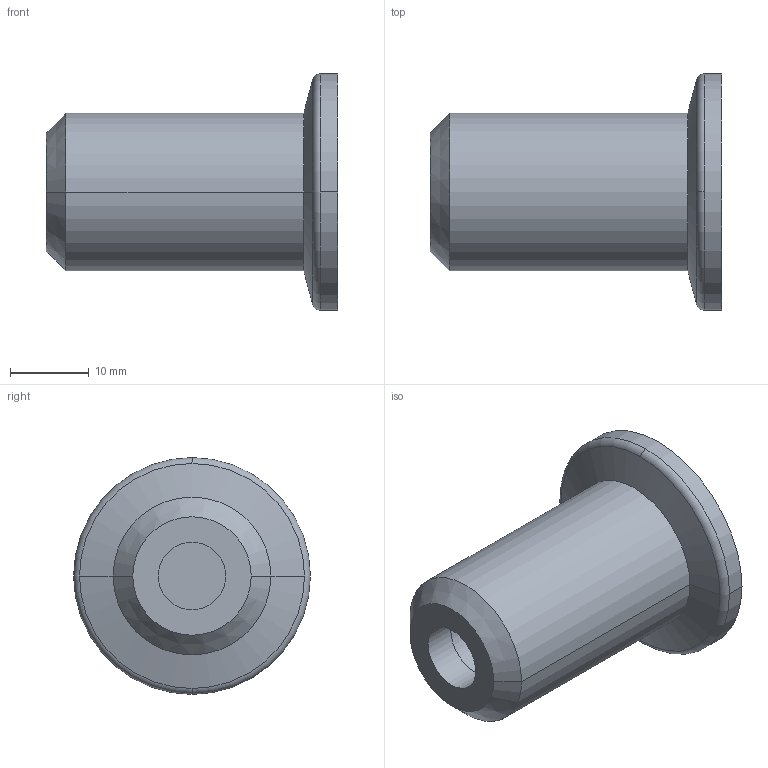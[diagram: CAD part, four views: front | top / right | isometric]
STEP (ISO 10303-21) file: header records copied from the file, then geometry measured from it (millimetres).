
FILE_DESCRIPTION(/* description */ (''),/* implementation_level */ '2;1');
FILE_NAME(/* name */ '1002115273_203.stp',/* time_stamp */ '2013-07-16T09:58:47+02:00',/* author */ (''),/* organization */ (''),/* preprocessor_version */ 'ST-DEVELOPER v11',/* originating_system */ 'SIEMENS PLM Software NX 7.5',/* authorisation */ '');
FILE_SCHEMA (('AP203_CONFIGURATION_CONTROLLED_3D_DESIGN_OF_MECHANICAL_PARTS_AND_ASSEMBLIES_MIM_LF'));
Length unit declared in the file: millimetre
Products named in the file (1): 580296
Bounding box: 37 x 30 x 30 mm (x, y, z)
Volume: 10037.3 mm3; surface area: 4938 mm2
Topology: 1 solids, 1 shells, 42 faces, 102 edges, 66 vertices
Faces by surface type: cylinder 23, plane 13, cone 4, torus 2
Full cylindrical faces by diameter (mm): 8.566 x1
Entity records: 1357 total; most frequent: DIRECTION 247, CARTESIAN_POINT 210, ORIENTED_EDGE 202, AXIS2_PLACEMENT_3D 103, EDGE_CURVE 101, VERTEX_POINT 66, CIRCLE 60, EDGE_LOOP 51
